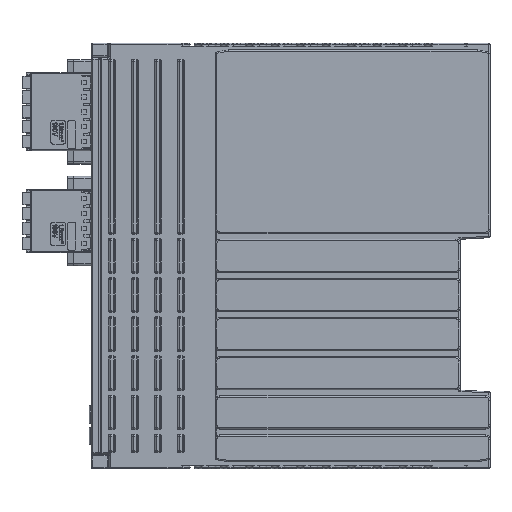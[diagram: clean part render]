
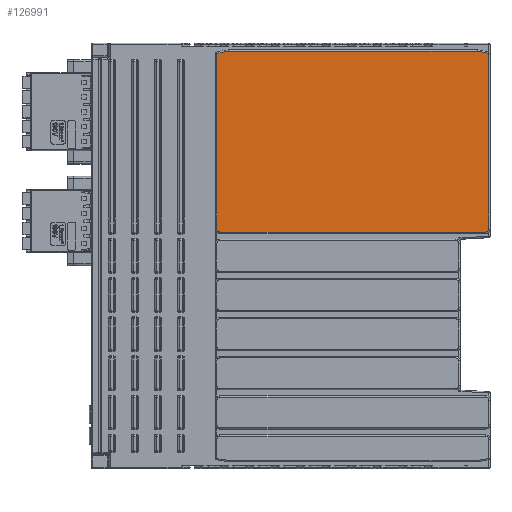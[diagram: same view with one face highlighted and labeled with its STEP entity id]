
A CAD part, top view. The second image highlights one B-rep face of the part: STEP entity #126991.
In plain terms, the highlighted planar face has unit normal (0, 0, 1).
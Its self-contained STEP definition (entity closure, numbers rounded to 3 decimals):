
#16213=LINE('',#217078,#28934);
#16214=LINE('',#217084,#28935);
#16215=LINE('',#217089,#28936);
#16216=LINE('',#217095,#28937);
#16218=LINE('',#217108,#28939);
#16219=LINE('',#217116,#28940);
#28934=VECTOR('',#173446,10.);
#28935=VECTOR('',#173455,10.);
#28936=VECTOR('',#173462,10.);
#28937=VECTOR('',#173471,10.);
#28939=VECTOR('',#173487,10.);
#28940=VECTOR('',#173500,10.);
#40612=FACE_OUTER_BOUND('',#47668,.T.);
#47668=EDGE_LOOP('',(#115762,#115763,#115764,#115765,#115766,#115767,#115768,
#115769));
#51754=CIRCLE('',#138325,0.7);
#51758=CIRCLE('',#138331,0.7);
#62897=VERTEX_POINT('',#217075);
#62898=VERTEX_POINT('',#217077);
#62899=VERTEX_POINT('',#217081);
#62900=VERTEX_POINT('',#217088);
#62901=VERTEX_POINT('',#217094);
#62902=VERTEX_POINT('',#217098);
#62904=VERTEX_POINT('',#217104);
#62906=VERTEX_POINT('',#217110);
#80567=EDGE_CURVE('',#62897,#62898,#16213,.T.);
#80571=EDGE_CURVE('',#62898,#62899,#16214,.T.);
#80573=EDGE_CURVE('',#62899,#62900,#16215,.T.);
#80576=EDGE_CURVE('',#62900,#62901,#16216,.T.);
#80580=EDGE_CURVE('',#62901,#62902,#51754,.T.);
#80583=EDGE_CURVE('',#62902,#62904,#16218,.T.);
#80586=EDGE_CURVE('',#62904,#62906,#51758,.T.);
#80588=EDGE_CURVE('',#62906,#62897,#16219,.T.);
#115762=ORIENTED_EDGE('',*,*,#80567,.F.);
#115763=ORIENTED_EDGE('',*,*,#80588,.F.);
#115764=ORIENTED_EDGE('',*,*,#80586,.F.);
#115765=ORIENTED_EDGE('',*,*,#80583,.F.);
#115766=ORIENTED_EDGE('',*,*,#80580,.F.);
#115767=ORIENTED_EDGE('',*,*,#80576,.F.);
#115768=ORIENTED_EDGE('',*,*,#80573,.F.);
#115769=ORIENTED_EDGE('',*,*,#80571,.F.);
#120233=PLANE('',#138336);
#126991=ADVANCED_FACE('',(#40612),#120233,.T.);
#138325=AXIS2_PLACEMENT_3D('',#217102,#173480,#173481);
#138331=AXIS2_PLACEMENT_3D('',#217113,#173494,#173495);
#138336=AXIS2_PLACEMENT_3D('',#217119,#173505,#173506);
#173446=DIRECTION('',(0.985,0.174,0.));
#173455=DIRECTION('',(1.,0.,0.));
#173462=DIRECTION('',(0.985,-0.174,0.));
#173471=DIRECTION('',(0.,-1.,0.));
#173480=DIRECTION('center_axis',(0.,0.,-1.));
#173481=DIRECTION('ref_axis',(0.707,-0.707,0.));
#173487=DIRECTION('',(-1.,0.,0.));
#173494=DIRECTION('center_axis',(0.,0.,-1.));
#173495=DIRECTION('ref_axis',(-0.707,-0.707,0.));
#173500=DIRECTION('',(0.,1.,0.));
#173505=DIRECTION('center_axis',(0.,0.,1.));
#173506=DIRECTION('ref_axis',(0.,-1.,0.));
#217075=CARTESIAN_POINT('',(-57.2,61.419,29.));
#217077=CARTESIAN_POINT('',(-54.474,61.9,29.));
#217078=CARTESIAN_POINT('',(-28.77,66.432,29.));
#217081=CARTESIAN_POINT('',(3.974,61.9,29.));
#217084=CARTESIAN_POINT('',(0.,61.9,29.));
#217088=CARTESIAN_POINT('',(6.7,61.419,29.));
#217089=CARTESIAN_POINT('',(2.758,62.114,29.));
#217094=CARTESIAN_POINT('',(6.7,20.1,29.));
#217095=CARTESIAN_POINT('',(6.7,38.,29.));
#217098=CARTESIAN_POINT('',(6.,19.4,29.));
#217102=CARTESIAN_POINT('Origin',(6.,20.1,29.));
#217104=CARTESIAN_POINT('',(-56.5,19.4,29.));
#217108=CARTESIAN_POINT('',(-28.75,19.4,29.));
#217110=CARTESIAN_POINT('',(-57.2,20.1,29.));
#217113=CARTESIAN_POINT('Origin',(-56.5,20.1,29.));
#217116=CARTESIAN_POINT('',(-57.2,38.,29.));
#217119=CARTESIAN_POINT('Origin',(0.,62.2,29.));
